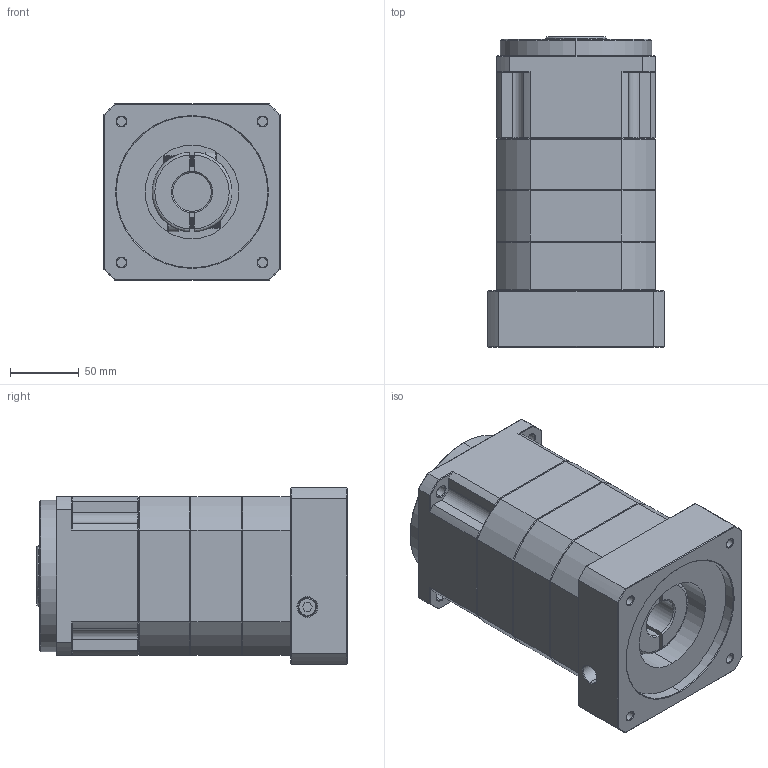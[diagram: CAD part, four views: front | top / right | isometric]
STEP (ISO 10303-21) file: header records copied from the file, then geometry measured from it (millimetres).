
FILE_DESCRIPTION (( 'STEP AP214' ), '1' );
FILE_NAME ('ZPB115-K32-L3-P1-28-110-145-M8.step', '2024-06-12T10:03:21', ( 'Windows 蚚誧' ), ( 'Organization' ), 'SwSTEP 2.0', 'SolidWorks 2016', '' );
FILE_SCHEMA (( 'AUTOMOTIVE_DESIGN' ));
Length unit declared in the file: millimetre
Products named in the file (1): ZPB115-K32-L3-P1-28-110-145-M8
Bounding box: 128 x 225.5 x 128 mm (x, y, z)
Surface area: 168787.2 mm2 (no closed solid volume)
Topology: 0 solids, 28 shells, 1808 faces, 4867 edges, 3122 vertices
Faces by surface type: plane 934, bspline 374, cone 276, cylinder 224
Entity records: 87047 total; most frequent: CARTESIAN_POINT 37945, ORIENTED_EDGE 9732, DIRECTION 7486, EDGE_CURVE 4867, VECTOR 3162, LINE 3162, VERTEX_POINT 3122, AXIS2_PLACEMENT_3D 2162
